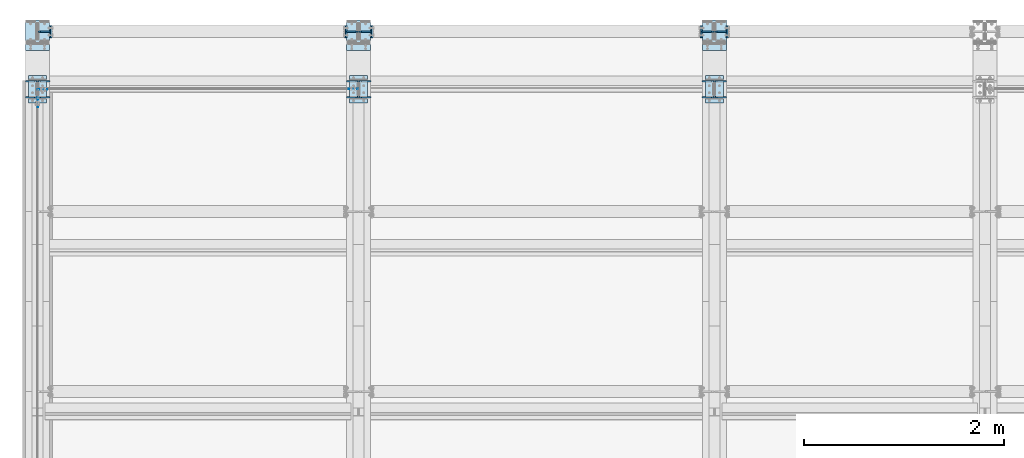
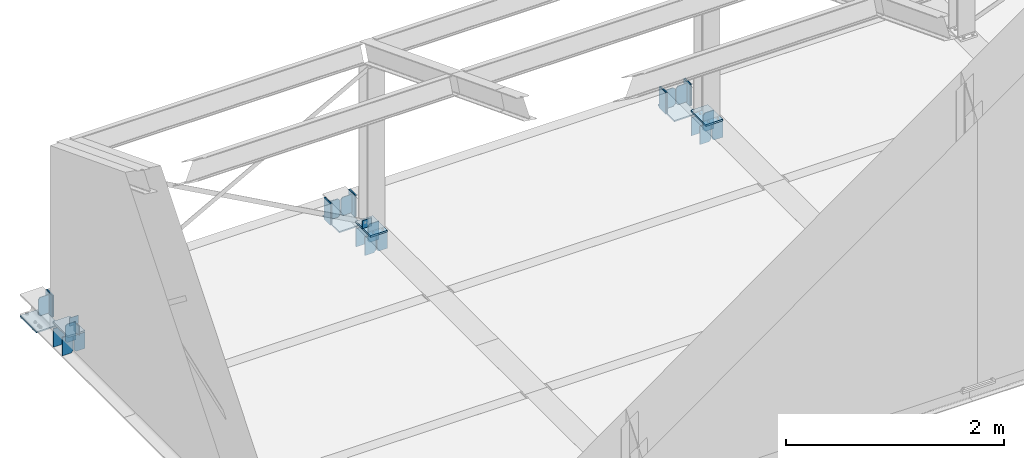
# One storey, part 5 of 66: 36 plates.
"""IFC4 building model written with IfcOpenShell, lengths in metres."""

from ifc_helpers import new_model, si_unit, frame, origin_with_axes, place, context, project, spatial, polyline, outline, extrude, type_object, element, save


model = new_model("IFC4")

# Units and contexts
model_context = context("Model", 3, precision=1e-05, world=origin_with_axes())
ifc_project = project(units=[si_unit("LENGTHUNIT", "METRE"), si_unit("AREAUNIT", "SQUARE_METRE"), si_unit("VOLUMEUNIT", "CUBIC_METRE"), si_unit("MASSUNIT", "GRAM", prefix="KILO"), si_unit("TIMEUNIT", "SECOND"), si_unit("PLANEANGLEUNIT", "RADIAN"), si_unit("SOLIDANGLEUNIT", "STERADIAN"), si_unit("THERMODYNAMICTEMPERATUREUNIT", "DEGREE_CELSIUS")], contexts=[model_context])

# Site, building, storey
placement_1 = place(None, origin_with_axes())
site = spatial("IfcSite", under=ifc_project, at=placement_1, Name="Italia", CompositionType="ELEMENT")
building = spatial("IfcBuilding", under=site, at=placement_1, Name="Uffici", CompositionType="ELEMENT")
storey_placement = place(None, frame((0.0, 0.0, 3.299999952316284), z_axis=(0.0, 0.0, 1.0), x_axis=(1.0, 0.0, 0.0)))
storey = spatial("IfcBuildingStorey", under=building, at=storey_placement, Name="Storey 1", CompositionType="ELEMENT", Elevation=3.299999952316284)

# Plates
plate_type_1 = type_object("IfcPlateType", Name="Collegamento 0106_0201", PredefinedType="SHEET")
placement_2 = place(placement_1, origin_with_axes())
plate_1_placement = place(placement_2, origin_with_axes())
element("IfcPlate", 1, at=plate_1_placement, inside=storey, type_object=plate_type_1, Name="Collegamento 0106_0201", context=model_context, shape_type="SweptSolid", body=[
    extrude(outline(polyline([(0.0, 0.0), (-0.0949993, 0.0), (-0.0949998, -0.1), (0.0, -0.0999999), (0.0, 0.0)])), frame((0.0075, 4.634, 3.42042), z_axis=(-1.0, 0.0, 0.0), x_axis=(0.0, -1.0, 0.0)), (0.0, 0.0, 1.0), 0.005),
])
plate_type_2 = type_object("IfcPlateType", Name="Collegamento 0106_0206", PredefinedType="SHEET")
plate_2_placement = place(placement_2, origin_with_axes())
element("IfcPlate", 2, at=plate_2_placement, inside=storey, type_object=plate_type_2, Name="Collegamento 0106_0206", context=model_context, shape_type="SweptSolid", body=[
    extrude(outline(polyline([(0.0, 0.0), (0.0, 0.18), (0.271, 0.18), (0.271, 0.0), (0.0, 0.0)])), frame((-0.09, 4.679, 3.32), z_axis=(0.0, 0.0, -1.0), x_axis=(0.0, 1.0, 0.0)), (0.0, 0.0, 1.0), 0.02),
])
plate_type_3 = type_object("IfcPlateType", Name="Collegamento 0106_0206", PredefinedType="SHEET")
plate_3_placement = place(placement_2, origin_with_axes())
element("IfcPlate", 3, at=plate_3_placement, inside=storey, type_object=plate_type_3, Name="Collegamento 0106_0206", context=model_context, shape_type="SweptSolid", body=[
    extrude(outline(polyline([(0.0, 0.0), (-0.094, 0.0), (-0.115, 0.0209999), (-0.115, 0.185), (-0.094, 0.206), (0.0, 0.206), (0.0, 0.0)])), frame((-0.12, 4.729, 3.077), z_axis=(0.0, 1.0, 0.0), x_axis=(-1.0, 0.0, 0.0)), (0.0, 0.0, 1.0), 0.00999975),
])
plate_type_4 = type_object("IfcPlateType", Name="Collegamento 0106_0206", PredefinedType="SHEET")
plate_4_placement = place(placement_2, origin_with_axes())
element("IfcPlate", 4, at=plate_4_placement, inside=storey, type_object=plate_type_4, Name="Collegamento 0106_0206", context=model_context, shape_type="SweptSolid", body=[
    extrude(outline(polyline([(0.0, 0.0), (0.094, 0.0), (0.115, 0.0209999), (0.115, 0.185), (0.094, 0.206), (0.0, 0.206), (0.0, 0.0)])), frame((-0.12, 4.9, 3.077), z_axis=(0.0, -1.0, 0.0), x_axis=(1.0, 0.0, 0.0)), (0.0, 0.0, 1.0), 0.00999975),
])
plate_type_5 = type_object("IfcPlateType", Name="Collegamento 0106_0206", PredefinedType="SHEET")
plate_5_placement = place(placement_2, origin_with_axes())
element("IfcPlate", 5, at=plate_5_placement, inside=storey, type_object=plate_type_5, Name="Collegamento 0106_0206", context=model_context, shape_type="SweptSolid", body=[
    extrude(outline(polyline([(0.0, 0.0), (-0.094, 0.0), (-0.115, 0.0209999), (-0.115, 0.185), (-0.094, 0.206), (0.0, 0.206), (0.0, 0.0)])), frame((0.12, 4.739, 3.077), z_axis=(0.0, -1.0, 0.0), x_axis=(1.0, 0.0, 0.0)), (0.0, 0.0, 1.0), 0.00999975),
])
plate_type_6 = type_object("IfcPlateType", Name="Collegamento 0106_0206", PredefinedType="SHEET")
plate_6_placement = place(placement_2, origin_with_axes())
element("IfcPlate", 6, at=plate_6_placement, inside=storey, type_object=plate_type_6, Name="Collegamento 0106_0206", context=model_context, shape_type="SweptSolid", body=[
    extrude(outline(polyline([(0.0, 0.0), (0.094, 0.0), (0.115, 0.0209999), (0.115, 0.185), (0.094, 0.206), (0.0, 0.206), (0.0, 0.0)])), frame((0.12, 4.89, 3.077), z_axis=(0.0, 1.0, 0.0), x_axis=(-1.0, 0.0, 0.0)), (0.0, 0.0, 1.0), 0.00999975),
])
plate_type_7 = type_object("IfcPlateType", Name="Collegamento 0106_0207", PredefinedType="SHEET")
plate_7_placement = place(placement_2, origin_with_axes())
element("IfcPlate", 7, at=plate_7_placement, inside=storey, type_object=plate_type_7, Name="Collegamento 0106_0207", context=model_context, shape_type="SweptSolid", body=[
    extrude(outline(polyline([(0.0, 0.0), (0.0949998, -2.38419e-07), (0.095, -0.0899999), (0.0, -0.0900002), (0.0, 0.0)])), frame((0.098, 4.8075, 3.41023), z_axis=(0.0, 1.0, 0.0), x_axis=(-1.0, 0.0, 0.0)), (0.0, 0.0, 1.0), 0.00500011),
])
plate_type_8 = type_object("IfcPlateType", Name="Collegamento 0107_0206", PredefinedType="SHEET")
plate_8_placement = place(placement_2, origin_with_axes())
element("IfcPlate", 8, at=plate_8_placement, inside=storey, type_object=plate_type_8, Name="Collegamento 0107_0206", context=model_context, shape_type="SweptSolid", body=[
    extrude(outline(polyline([(0.0, 0.0), (-0.095, -2.38419e-07), (-0.0950003, -0.0899997), (0.0, -0.0899999), (0.0, 0.0)])), frame((3.107, 4.8125, 3.41023), z_axis=(0.0, 1.0, 0.0), x_axis=(-1.0, 0.0, 0.0)), (0.0, 0.0, 1.0), 0.00500011),
])
plate_type_9 = type_object("IfcPlateType", Name="Collegamento 0107_0207", PredefinedType="SHEET")
plate_9_placement = place(placement_2, origin_with_axes())
element("IfcPlate", 9, at=plate_9_placement, inside=storey, type_object=plate_type_9, Name="Collegamento 0107_0207", context=model_context, shape_type="SweptSolid", body=[
    extrude(outline(polyline([(0.0, 0.0), (0.0, 0.18), (0.271, 0.18), (0.271, 0.0), (0.0, 0.0)])), frame((3.115, 4.679, 3.32), z_axis=(0.0, 0.0, -1.0), x_axis=(0.0, 1.0, 0.0)), (0.0, 0.0, 1.0), 0.02),
])
plate_type_10 = type_object("IfcPlateType", Name="Collegamento 0107_0207", PredefinedType="SHEET")
plate_10_placement = place(placement_2, origin_with_axes())
element("IfcPlate", 10, at=plate_10_placement, inside=storey, type_object=plate_type_10, Name="Collegamento 0107_0207", context=model_context, shape_type="SweptSolid", body=[
    extrude(outline(polyline([(0.0, 0.0), (-0.0939999, 0.0), (-0.115, 0.0209999), (-0.115, 0.185), (-0.0939999, 0.206), (0.0, 0.206), (0.0, 0.0)])), frame((3.085, 4.729, 3.077), z_axis=(0.0, 1.0, 0.0), x_axis=(-1.0, 0.0, 0.0)), (0.0, 0.0, 1.0), 0.00999975),
])
plate_type_11 = type_object("IfcPlateType", Name="Collegamento 0107_0207", PredefinedType="SHEET")
plate_11_placement = place(placement_2, origin_with_axes())
element("IfcPlate", 11, at=plate_11_placement, inside=storey, type_object=plate_type_11, Name="Collegamento 0107_0207", context=model_context, shape_type="SweptSolid", body=[
    extrude(outline(polyline([(0.0, 0.0), (0.0939999, 0.0), (0.115, 0.0209999), (0.115, 0.185), (0.0939999, 0.206), (0.0, 0.206), (0.0, 0.0)])), frame((3.085, 4.9, 3.077), z_axis=(0.0, -1.0, 0.0), x_axis=(1.0, 0.0, 0.0)), (0.0, 0.0, 1.0), 0.00999975),
])
plate_type_12 = type_object("IfcPlateType", Name="Collegamento 0107_0207", PredefinedType="SHEET")
plate_12_placement = place(placement_2, origin_with_axes())
element("IfcPlate", 12, at=plate_12_placement, inside=storey, type_object=plate_type_12, Name="Collegamento 0107_0207", context=model_context, shape_type="SweptSolid", body=[
    extrude(outline(polyline([(0.0, 0.0), (-0.0939999, 0.0), (-0.115, 0.0209999), (-0.115, 0.185), (-0.0939999, 0.206), (0.0, 0.206), (0.0, 0.0)])), frame((3.325, 4.739, 3.077), z_axis=(0.0, -1.0, 0.0), x_axis=(1.0, 0.0, 0.0)), (0.0, 0.0, 1.0), 0.00999975),
])
plate_type_13 = type_object("IfcPlateType", Name="Collegamento 0107_0207", PredefinedType="SHEET")
plate_13_placement = place(placement_2, origin_with_axes())
element("IfcPlate", 13, at=plate_13_placement, inside=storey, type_object=plate_type_13, Name="Collegamento 0107_0207", context=model_context, shape_type="SweptSolid", body=[
    extrude(outline(polyline([(0.0, 0.0), (0.0939999, 0.0), (0.115, 0.0209999), (0.115, 0.185), (0.0939999, 0.206), (0.0, 0.206), (0.0, 0.0)])), frame((3.325, 4.89, 3.077), z_axis=(0.0, 1.0, 0.0), x_axis=(-1.0, 0.0, 0.0)), (0.0, 0.0, 1.0), 0.00999975),
])
plate_type_14 = type_object("IfcPlateType", Name="Collegamento 0108_0208", PredefinedType="SHEET")
plate_14_placement = place(placement_2, origin_with_axes())
element("IfcPlate", 14, at=plate_14_placement, inside=storey, type_object=plate_type_14, Name="Collegamento 0108_0208", context=model_context, shape_type="SweptSolid", body=[
    extrude(outline(polyline([(0.0, 0.0), (0.0, 0.18), (0.271, 0.18), (0.271, 0.0), (0.0, 0.0)])), frame((6.665, 4.679, 3.32), z_axis=(0.0, 0.0, -1.0), x_axis=(0.0, 1.0, 0.0)), (0.0, 0.0, 1.0), 0.02),
])
plate_type_15 = type_object("IfcPlateType", Name="Collegamento 0108_0208", PredefinedType="SHEET")
plate_15_placement = place(placement_2, origin_with_axes())
element("IfcPlate", 15, at=plate_15_placement, inside=storey, type_object=plate_type_15, Name="Collegamento 0108_0208", context=model_context, shape_type="SweptSolid", body=[
    extrude(outline(polyline([(0.0, 0.0), (-0.0939999, 0.0), (-0.115, 0.0209999), (-0.115, 0.185), (-0.0939999, 0.206), (0.0, 0.206), (0.0, 0.0)])), frame((6.635, 4.729, 3.077), z_axis=(0.0, 1.0, 0.0), x_axis=(-1.0, 0.0, 0.0)), (0.0, 0.0, 1.0), 0.00999975),
])
plate_type_16 = type_object("IfcPlateType", Name="Collegamento 0108_0208", PredefinedType="SHEET")
plate_16_placement = place(placement_2, origin_with_axes())
element("IfcPlate", 16, at=plate_16_placement, inside=storey, type_object=plate_type_16, Name="Collegamento 0108_0208", context=model_context, shape_type="SweptSolid", body=[
    extrude(outline(polyline([(0.0, 0.0), (0.0939999, 0.0), (0.115, 0.0209999), (0.115, 0.185), (0.0939999, 0.206), (0.0, 0.206), (0.0, 0.0)])), frame((6.635, 4.9, 3.077), z_axis=(0.0, -1.0, 0.0), x_axis=(1.0, 0.0, 0.0)), (0.0, 0.0, 1.0), 0.00999975),
])
plate_type_17 = type_object("IfcPlateType", Name="Collegamento 0108_0208", PredefinedType="SHEET")
plate_17_placement = place(placement_2, origin_with_axes())
element("IfcPlate", 17, at=plate_17_placement, inside=storey, type_object=plate_type_17, Name="Collegamento 0108_0208", context=model_context, shape_type="SweptSolid", body=[
    extrude(outline(polyline([(0.0, 0.0), (-0.0939999, 0.0), (-0.115, 0.0209999), (-0.115, 0.185), (-0.0939999, 0.206), (0.0, 0.206), (0.0, 0.0)])), frame((6.875, 4.739, 3.077), z_axis=(0.0, -1.0, 0.0), x_axis=(1.0, 0.0, 0.0)), (0.0, 0.0, 1.0), 0.00999975),
])
plate_type_18 = type_object("IfcPlateType", Name="Collegamento 0108_0208", PredefinedType="SHEET")
plate_18_placement = place(placement_2, origin_with_axes())
element("IfcPlate", 18, at=plate_18_placement, inside=storey, type_object=plate_type_18, Name="Collegamento 0108_0208", context=model_context, shape_type="SweptSolid", body=[
    extrude(outline(polyline([(0.0, 0.0), (0.0939999, 0.0), (0.115, 0.0209999), (0.115, 0.185), (0.0939999, 0.206), (0.0, 0.206), (0.0, 0.0)])), frame((6.875, 4.89, 3.077), z_axis=(0.0, 1.0, 0.0), x_axis=(-1.0, 0.0, 0.0)), (0.0, 0.0, 1.0), 0.00999975),
])
plate_type_19 = type_object("IfcPlateType", Name="Collegamenti 0111_0011 0112_0012 0113_0013 0114_0014 0115_0015", PredefinedType="SHEET")
plate_19_placement = place(placement_2, origin_with_axes())
element("IfcPlate", 19, at=plate_19_placement, inside=storey, type_object=plate_type_19, Name="Collegamenti 0111_0011 0112_0012 0113_0013 0114_0014 0115_0015", context=model_context, shape_type="SweptSolid", body=[
    extrude(outline(polyline([(0.0, 0.0), (0.0, 0.24), (0.303, 0.24), (0.303, 0.0), (0.0, 0.0)])), frame((0.12, 5.202, 3.045), z_axis=(0.0, 0.0, 1.0), x_axis=(0.0, 1.0, 0.0)), (0.0, 0.0, 1.0), 0.0150001),
])
plate_type_20 = type_object("IfcPlateType", Name="Collegamenti 0111_0011 0112_0012 0113_0013 0114_0014 0115_0015", PredefinedType="SHEET")
plate_20_placement = place(placement_2, origin_with_axes())
element("IfcPlate", 20, at=plate_20_placement, inside=storey, type_object=plate_type_20, Name="Collegamenti 0111_0011 0112_0012 0113_0013 0114_0014 0115_0015", context=model_context, shape_type="SweptSolid", body=[
    extrude(outline(polyline([(0.0, 0.0), (0.0, 0.24), (0.303, 0.24), (0.303, 0.0), (0.0, 0.0)])), frame((3.325, 5.202, 3.045), z_axis=(0.0, 0.0, 1.0), x_axis=(0.0, 1.0, 0.0)), (0.0, 0.0, 1.0), 0.0150001),
])
plate_type_21 = type_object("IfcPlateType", Name="Collegamenti 0111_0011 0112_0012 0113_0013 0114_0014 0115_0015", PredefinedType="SHEET")
plate_21_placement = place(placement_2, origin_with_axes())
element("IfcPlate", 21, at=plate_21_placement, inside=storey, type_object=plate_type_21, Name="Collegamenti 0111_0011 0112_0012 0113_0013 0114_0014 0115_0015", context=model_context, shape_type="SweptSolid", body=[
    extrude(outline(polyline([(0.0, 0.0), (0.0, 0.24), (0.303, 0.24), (0.303, 0.0), (0.0, 0.0)])), frame((6.875, 5.202, 3.045), z_axis=(0.0, 0.0, 1.0), x_axis=(0.0, 1.0, 0.0)), (0.0, 0.0, 1.0), 0.0150001),
])
plate_type_22 = type_object("IfcPlateType", Name="Collegamento 0111_0112", PredefinedType="SHEET")
plate_22_placement = place(placement_2, origin_with_axes())
element("IfcPlate", 22, at=plate_22_placement, inside=storey, type_object=plate_type_22, Name="Collegamento 0111_0112", context=model_context, shape_type="SweptSolid", body=[
    extrude(outline(polyline([(0.0, 0.0), (-0.12, 0.0), (-0.12, 0.24), (0.0, 0.24), (0.0, 0.0)])), frame((0.13, 5.33, 3.06), z_axis=(-1.0, 0.0, 0.0), x_axis=(0.0, -1.0, 0.0)), (0.0, 0.0, 1.0), 0.01),
])
plate_type_23 = type_object("IfcPlateType", Name="Collegamento 0111_0112", PredefinedType="SHEET")
plate_23_placement = place(placement_2, origin_with_axes())
element("IfcPlate", 23, at=plate_23_placement, inside=storey, type_object=plate_type_23, Name="Collegamento 0111_0112", context=model_context, shape_type="SweptSolid", body=[
    extrude(outline(polyline([(0.0, 0.0), (-0.12, 0.0), (-0.12, 0.24), (0.0, 0.24), (0.0, 0.0)])), frame((0.14, 5.33, 3.06), z_axis=(-1.0, 0.0, 0.0), x_axis=(0.0, -1.0, 0.0)), (0.0, 0.0, 1.0), 0.01),
])
plate_type_24 = type_object("IfcPlateType", Name="Collegamento 0111_0112", PredefinedType="SHEET")
plate_24_placement = place(placement_2, origin_with_axes())
element("IfcPlate", 24, at=plate_24_placement, inside=storey, type_object=plate_type_24, Name="Collegamento 0111_0112", context=model_context, shape_type="SweptSolid", body=[
    extrude(outline(polyline([(0.0, 0.0), (0.094, 0.0), (0.115, 0.0210001), (0.115, 0.185), (0.094, 0.206), (0.0, 0.206), (0.0, 0.0)])), frame((0.12, 5.385, 3.077), z_axis=(0.0, 1.0, 0.0), x_axis=(-1.0, 0.0, 0.0)), (0.0, 0.0, 1.0), 0.0100002),
])
plate_type_25 = type_object("IfcPlateType", Name="Collegamento 0112_0111", PredefinedType="SHEET")
plate_25_placement = place(placement_2, origin_with_axes())
element("IfcPlate", 25, at=plate_25_placement, inside=storey, type_object=plate_type_25, Name="Collegamento 0112_0111", context=model_context, shape_type="SweptSolid", body=[
    extrude(outline(polyline([(0.0, 0.0), (-0.12, 0.0), (-0.12, 0.24), (0.0, 0.24), (0.0, 0.0)])), frame((3.075, 5.45, 3.06), z_axis=(1.0, 0.0, 0.0), x_axis=(0.0, 1.0, 0.0)), (0.0, 0.0, 1.0), 0.00999999),
])
plate_type_26 = type_object("IfcPlateType", Name="Collegamento 0112_0111", PredefinedType="SHEET")
plate_26_placement = place(placement_2, origin_with_axes())
element("IfcPlate", 26, at=plate_26_placement, inside=storey, type_object=plate_type_26, Name="Collegamento 0112_0111", context=model_context, shape_type="SweptSolid", body=[
    extrude(outline(polyline([(0.0, 0.0), (-0.12, 0.0), (-0.12, 0.24), (0.0, 0.24), (0.0, 0.0)])), frame((3.065, 5.45, 3.06), z_axis=(1.0, 0.0, 0.0), x_axis=(0.0, 1.0, 0.0)), (0.0, 0.0, 1.0), 0.00999999),
])
plate_type_27 = type_object("IfcPlateType", Name="Collegamento 0112_0111", PredefinedType="SHEET")
plate_27_placement = place(placement_2, origin_with_axes())
element("IfcPlate", 27, at=plate_27_placement, inside=storey, type_object=plate_type_27, Name="Collegamento 0112_0111", context=model_context, shape_type="SweptSolid", body=[
    extrude(outline(polyline([(0.0, 0.0), (0.0940001, 0.0), (0.115, 0.0210001), (0.115, 0.185), (0.0940001, 0.206), (0.0, 0.206), (0.0, 0.0)])), frame((3.085, 5.395, 3.077), z_axis=(0.0, -1.0, 0.0), x_axis=(1.0, 0.0, 0.0)), (0.0, 0.0, 1.0), 0.0100002),
])
plate_type_28 = type_object("IfcPlateType", Name="Collegamento 0112_0113", PredefinedType="SHEET")
plate_28_placement = place(placement_2, origin_with_axes())
element("IfcPlate", 28, at=plate_28_placement, inside=storey, type_object=plate_type_28, Name="Collegamento 0112_0113", context=model_context, shape_type="SweptSolid", body=[
    extrude(outline(polyline([(0.0, 0.0), (-0.12, 0.0), (-0.12, 0.24), (0.0, 0.24), (0.0, 0.0)])), frame((3.335, 5.33, 3.06), z_axis=(-1.0, 0.0, 0.0), x_axis=(0.0, -1.0, 0.0)), (0.0, 0.0, 1.0), 0.00999999),
])
plate_type_29 = type_object("IfcPlateType", Name="Collegamento 0112_0113", PredefinedType="SHEET")
plate_29_placement = place(placement_2, origin_with_axes())
element("IfcPlate", 29, at=plate_29_placement, inside=storey, type_object=plate_type_29, Name="Collegamento 0112_0113", context=model_context, shape_type="SweptSolid", body=[
    extrude(outline(polyline([(0.0, 0.0), (-0.12, 0.0), (-0.12, 0.24), (0.0, 0.24), (0.0, 0.0)])), frame((3.345, 5.33, 3.06), z_axis=(-1.0, 0.0, 0.0), x_axis=(0.0, -1.0, 0.0)), (0.0, 0.0, 1.0), 0.00999999),
])
plate_type_30 = type_object("IfcPlateType", Name="Collegamento 0112_0113", PredefinedType="SHEET")
plate_30_placement = place(placement_2, origin_with_axes())
element("IfcPlate", 30, at=plate_30_placement, inside=storey, type_object=plate_type_30, Name="Collegamento 0112_0113", context=model_context, shape_type="SweptSolid", body=[
    extrude(outline(polyline([(0.0, 0.0), (0.0940001, 0.0), (0.115, 0.0210001), (0.115, 0.185), (0.0940001, 0.206), (0.0, 0.206), (0.0, 0.0)])), frame((3.325, 5.385, 3.077), z_axis=(0.0, 1.0, 0.0), x_axis=(-1.0, 0.0, 0.0)), (0.0, 0.0, 1.0), 0.0100002),
])
plate_type_31 = type_object("IfcPlateType", Name="Collegamento 0113_0112", PredefinedType="SHEET")
plate_31_placement = place(placement_2, origin_with_axes())
element("IfcPlate", 31, at=plate_31_placement, inside=storey, type_object=plate_type_31, Name="Collegamento 0113_0112", context=model_context, shape_type="SweptSolid", body=[
    extrude(outline(polyline([(0.0, 0.0), (-0.12, 0.0), (-0.12, 0.24), (0.0, 0.24), (0.0, 0.0)])), frame((6.625, 5.45, 3.06), z_axis=(1.0, 0.0, 0.0), x_axis=(0.0, 1.0, 0.0)), (0.0, 0.0, 1.0), 0.0100002),
])
plate_type_32 = type_object("IfcPlateType", Name="Collegamento 0113_0112", PredefinedType="SHEET")
plate_32_placement = place(placement_2, origin_with_axes())
element("IfcPlate", 32, at=plate_32_placement, inside=storey, type_object=plate_type_32, Name="Collegamento 0113_0112", context=model_context, shape_type="SweptSolid", body=[
    extrude(outline(polyline([(0.0, 0.0), (-0.12, 0.0), (-0.12, 0.24), (0.0, 0.24), (0.0, 0.0)])), frame((6.615, 5.45, 3.06), z_axis=(1.0, 0.0, 0.0), x_axis=(0.0, 1.0, 0.0)), (0.0, 0.0, 1.0), 0.00999975),
])
plate_type_33 = type_object("IfcPlateType", Name="Collegamento 0113_0112", PredefinedType="SHEET")
plate_33_placement = place(placement_2, origin_with_axes())
element("IfcPlate", 33, at=plate_33_placement, inside=storey, type_object=plate_type_33, Name="Collegamento 0113_0112", context=model_context, shape_type="SweptSolid", body=[
    extrude(outline(polyline([(0.0, 0.0), (0.0939999, 0.0), (0.115, 0.0210001), (0.115, 0.185), (0.0939999, 0.206), (0.0, 0.206), (0.0, 0.0)])), frame((6.635, 5.395, 3.077), z_axis=(0.0, -1.0, 0.0), x_axis=(1.0, 0.0, 0.0)), (0.0, 0.0, 1.0), 0.0100002),
])
plate_type_34 = type_object("IfcPlateType", Name="Collegamento 0113_0114", PredefinedType="SHEET")
plate_34_placement = place(placement_2, origin_with_axes())
element("IfcPlate", 34, at=plate_34_placement, inside=storey, type_object=plate_type_34, Name="Collegamento 0113_0114", context=model_context, shape_type="SweptSolid", body=[
    extrude(outline(polyline([(0.0, 0.0), (-0.12, 0.0), (-0.12, 0.24), (0.0, 0.24), (0.0, 0.0)])), frame((6.885, 5.33, 3.06), z_axis=(-1.0, 0.0, 0.0), x_axis=(0.0, -1.0, 0.0)), (0.0, 0.0, 1.0), 0.0100002),
])
plate_type_35 = type_object("IfcPlateType", Name="Collegamento 0113_0114", PredefinedType="SHEET")
plate_35_placement = place(placement_2, origin_with_axes())
element("IfcPlate", 35, at=plate_35_placement, inside=storey, type_object=plate_type_35, Name="Collegamento 0113_0114", context=model_context, shape_type="SweptSolid", body=[
    extrude(outline(polyline([(0.0, 0.0), (-0.12, 0.0), (-0.12, 0.24), (0.0, 0.24), (0.0, 0.0)])), frame((6.895, 5.33, 3.06), z_axis=(-1.0, 0.0, 0.0), x_axis=(0.0, -1.0, 0.0)), (0.0, 0.0, 1.0), 0.00999975),
])
plate_type_36 = type_object("IfcPlateType", Name="Collegamento 0113_0114", PredefinedType="SHEET")
plate_36_placement = place(placement_2, origin_with_axes())
element("IfcPlate", 36, at=plate_36_placement, inside=storey, type_object=plate_type_36, Name="Collegamento 0113_0114", context=model_context, shape_type="SweptSolid", body=[
    extrude(outline(polyline([(0.0, 0.0), (0.0939999, 0.0), (0.115, 0.0210001), (0.115, 0.185), (0.0939999, 0.206), (0.0, 0.206), (0.0, 0.0)])), frame((6.875, 5.385, 3.077), z_axis=(0.0, 1.0, 0.0), x_axis=(-1.0, 0.0, 0.0)), (0.0, 0.0, 1.0), 0.0100002),
])

save(model, "model.ifc")
